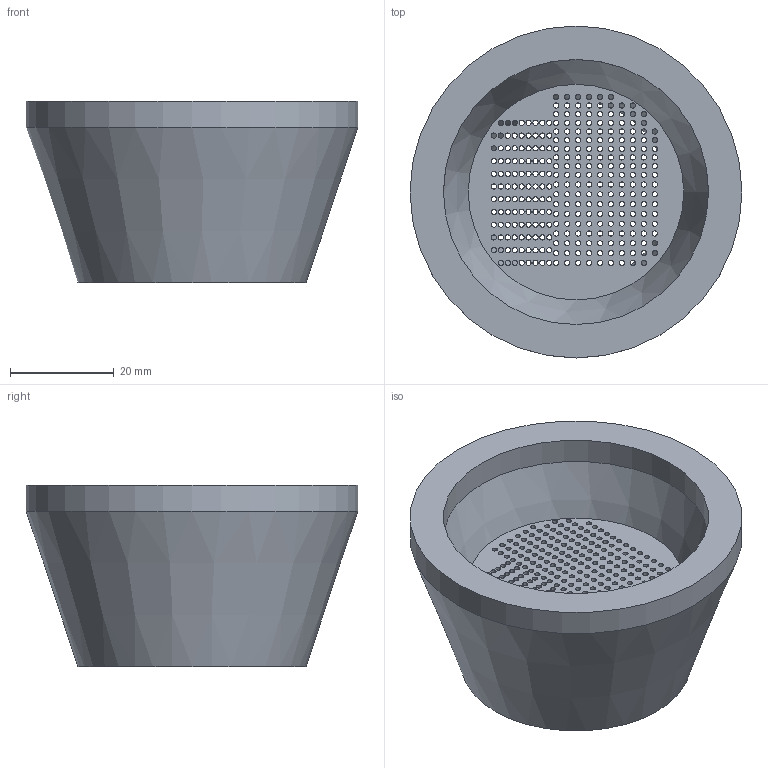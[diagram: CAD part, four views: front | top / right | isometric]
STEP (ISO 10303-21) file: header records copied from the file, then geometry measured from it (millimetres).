
FILE_DESCRIPTION(/* description */ (''),/* implementation_level */ '2;1');
FILE_NAME(/* name */ 'D:/Files/3D/For Submission/Lid (Pipe).step',/* time_stamp */ '2020-10-28T00:59:25+05:00',/* author */ (''),/* organization */ (''),/* preprocessor_version */ 'ST-DEVELOPER v18.1',/* originating_system */ 'Autodesk Translation Framework v9.3.0.1241',/* authorisation */ '');
FILE_SCHEMA (('AUTOMOTIVE_DESIGN { 1 0 10303 214 3 1 1 }'));
Length unit declared in the file: millimetre
Products named in the file (1): Lid 1 (Pipe)
Bounding box: 64 x 64 x 35 mm (x, y, z)
Volume: 39677.8 mm3; surface area: 20182.2 mm2
Topology: 1 solids, 1 shells, 298 faces, 880 edges, 586 vertices
Faces by surface type: cylinder 291, plane 4, cone 3
Full cylindrical faces by diameter (mm): 1 x287, 35.259 x1, 41.567 x1, 51.108 x1, 64 x1
Entity records: 11495 total; most frequent: DIRECTION 2064, CARTESIAN_POINT 1765, ORIENTED_EDGE 1760, AXIS2_PLACEMENT_3D 885, EDGE_CURVE 880, EDGE_LOOP 874, CIRCLE 586, VERTEX_POINT 586
